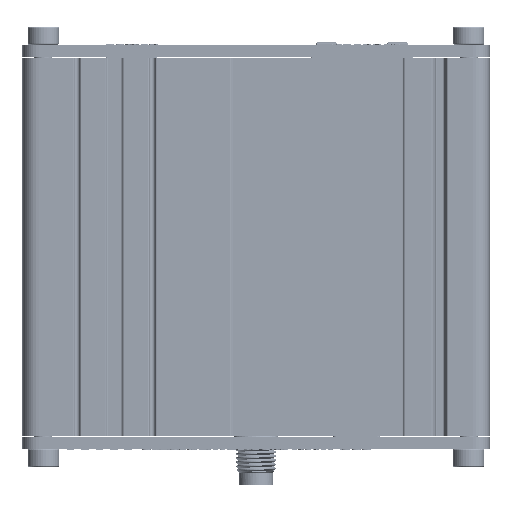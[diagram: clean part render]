
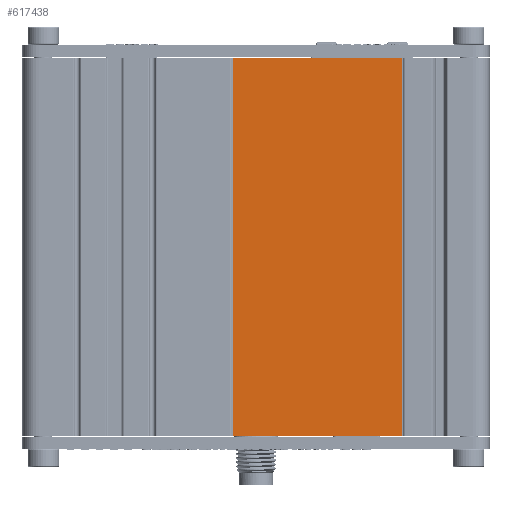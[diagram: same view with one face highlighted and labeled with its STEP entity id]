
A CAD part, front view. The second image highlights one B-rep face of the part: STEP entity #617438.
In plain terms, the highlighted planar face has unit normal (0, -1, 0).
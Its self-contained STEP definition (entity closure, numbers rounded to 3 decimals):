
#80696 = EDGE_LOOP ( 'NONE', ( #259093, #711770, #366079, #166279 ) ) ;
#83064 = VERTEX_POINT ( 'NONE', #648581 ) ;
#101023 = CARTESIAN_POINT ( 'NONE',  ( 23.311, -12.25, 60.2 ) ) ;
#121872 = EDGE_CURVE ( 'NONE', #200632, #440727, #219194, .T. ) ;
#136925 = VECTOR ( 'NONE', #343741, 1000. ) ;
#151725 = DIRECTION ( 'NONE',  ( 0., 0., -1. ) ) ;
#160555 = LINE ( 'NONE', #522582, #550805 ) ;
#166279 = ORIENTED_EDGE ( 'NONE', *, *, #399902, .T. ) ;
#171947 = CARTESIAN_POINT ( 'NONE',  ( -3.711, -12.25, 60.2 ) ) ;
#200632 = VERTEX_POINT ( 'NONE', #313350 ) ;
#205557 = EDGE_CURVE ( 'NONE', #440727, #597140, #386609, .T. ) ;
#219194 = LINE ( 'NONE', #406100, #274843 ) ;
#221465 = FACE_OUTER_BOUND ( 'NONE', #80696, .T. ) ;
#229299 = PLANE ( 'NONE',  #701749 ) ;
#259093 = ORIENTED_EDGE ( 'NONE', *, *, #121872, .T. ) ;
#274843 = VECTOR ( 'NONE', #585071, 1000. ) ;
#288992 = DIRECTION ( 'NONE',  ( 1., 0., 0. ) ) ;
#313350 = CARTESIAN_POINT ( 'NONE',  ( 23.311, -12.25, 60.2 ) ) ;
#343741 = DIRECTION ( 'NONE',  ( 0., 0., 1. ) ) ;
#366079 = ORIENTED_EDGE ( 'NONE', *, *, #750530, .T. ) ;
#386609 = LINE ( 'NONE', #629150, #780880 ) ;
#399902 = EDGE_CURVE ( 'NONE', #83064, #200632, #478753, .T. ) ;
#406100 = CARTESIAN_POINT ( 'NONE',  ( -3.85, -12.25, 60.2 ) ) ;
#408335 = CARTESIAN_POINT ( 'NONE',  ( 0., -12.25, 0. ) ) ;
#440727 = VERTEX_POINT ( 'NONE', #171947 ) ;
#462881 = DIRECTION ( 'NONE',  ( 1., 0., 0. ) ) ;
#478753 = LINE ( 'NONE', #101023, #136925 ) ;
#522582 = CARTESIAN_POINT ( 'NONE',  ( -3.85, -12.25, 0. ) ) ;
#523793 = DIRECTION ( 'NONE',  ( 0., -1., 0. ) ) ;
#550805 = VECTOR ( 'NONE', #462881, 1000. ) ;
#585071 = DIRECTION ( 'NONE',  ( -1., 0., 0. ) ) ;
#595536 = CARTESIAN_POINT ( 'NONE',  ( -3.711, -12.25, 0. ) ) ;
#597140 = VERTEX_POINT ( 'NONE', #595536 ) ;
#617438 = ADVANCED_FACE ( 'NONE', ( #221465 ), #229299, .T. ) ;
#629150 = CARTESIAN_POINT ( 'NONE',  ( -3.711, -12.25, 0. ) ) ;
#648581 = CARTESIAN_POINT ( 'NONE',  ( 23.311, -12.25, 0. ) ) ;
#701749 = AXIS2_PLACEMENT_3D ( 'NONE', #408335, #523793, #288992 ) ;
#711770 = ORIENTED_EDGE ( 'NONE', *, *, #205557, .T. ) ;
#750530 = EDGE_CURVE ( 'NONE', #597140, #83064, #160555, .T. ) ;
#780880 = VECTOR ( 'NONE', #151725, 1000. ) ;
